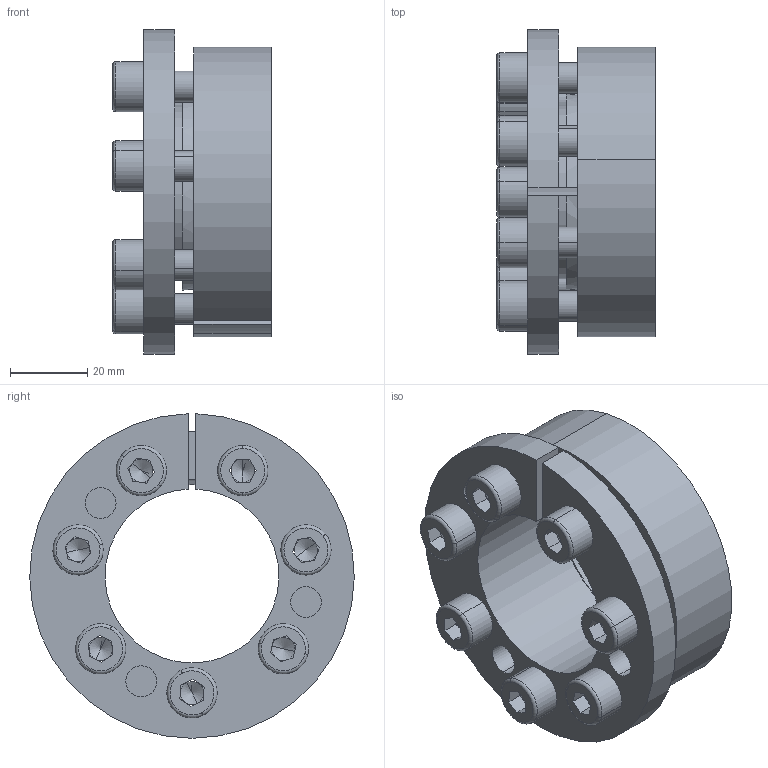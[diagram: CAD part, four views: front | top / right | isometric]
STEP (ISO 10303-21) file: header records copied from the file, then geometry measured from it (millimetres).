
FILE_DESCRIPTION (( 'STEP AP203' ), '1' );
FILE_NAME ('D3-45-75.STEP', '2017-10-12T05:58:10', ( 'MYCOM' ), ( '' ), 'SwSTEP 2.0', 'SolidWorks 2015', '' );
FILE_SCHEMA (( 'CONFIG_CONTROL_DESIGN' ));
Length unit declared in the file: millimetre
Products named in the file (1): D3-45-75
Bounding box: 41 x 83.99 x 83.99 mm (x, y, z)
Surface area: 42319.5 mm2 (no closed solid volume)
Topology: 0 solids, 16 shells, 194 faces, 504 edges, 305 vertices
Faces by surface type: plane 92, cylinder 70, cone 18, torus 14
Entity records: 5933 total; most frequent: DIRECTION 1092, CARTESIAN_POINT 1011, ORIENTED_EDGE 910, EDGE_CURVE 490, AXIS2_PLACEMENT_3D 411, VERTEX_POINT 305, LINE 270, VECTOR 270
